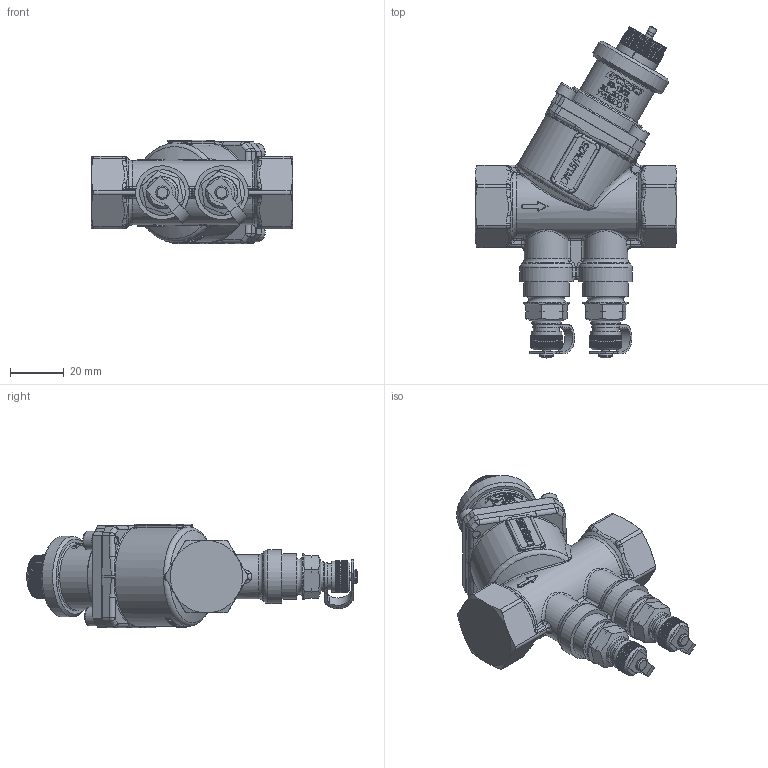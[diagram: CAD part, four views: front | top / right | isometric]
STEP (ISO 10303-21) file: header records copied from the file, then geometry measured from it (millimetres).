
FILE_DESCRIPTION((''),'2;1');
FILE_NAME('F:\Marketing\1marketing\Tegninger\Frese OPTIMA Compact\3D models\OPTIMA Compact FF DN15 PT.stp','2012-09-05T15:16:45',('JJO'),(''),'Autodesk Inventor 2012','Autodesk Inventor 2012','');
FILE_SCHEMA(('AUTOMOTIVE_DESIGN { 1 0 10303 214 1 1 1 1 }'));
Length unit declared in the file: millimetre
Products named in the file (1): 53-1362_Shrinkwrap_1
Bounding box: 75 x 123.63 x 38.5 mm (x, y, z)
Surface area: 54839.7 mm2 (no closed solid volume)
Topology: 0 solids, 80 shells, 4032 faces, 10894 edges, 7051 vertices
Faces by surface type: plane 2067, cylinder 883, bspline 812, torus 135, cone 107, sphere 22, revolution 6
Full cylindrical faces by diameter (mm): 2.5 x1, 2.9 x2, 3 x3, 3.2 x2, 3.242 x1, 4 x5, 5 x3, 5.2 x1, 5.4 x2, 6 x2, 7 x4, 8 x1, 8.2 x1, 8.5 x2, 8.92 x1, 9.1 x1, 9.3 x1, 9.728 x2, 10 x2, 10.15 x1, 11 x3, 11.5 x2, 11.7 x2, 12.4 x1, 12.5 x1, 13.157 x2, 13.9 x4, 14 x1, 15 x2, 15.4 x1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
Entity records: 176809 total; most frequent: CARTESIAN_POINT 78537, ORIENTED_EDGE 21278, DIRECTION 17218, EDGE_CURVE 10639, VERTEX_POINT 7026, AXIS2_PLACEMENT_3D 6234, VECTOR 4744, LINE 4744
